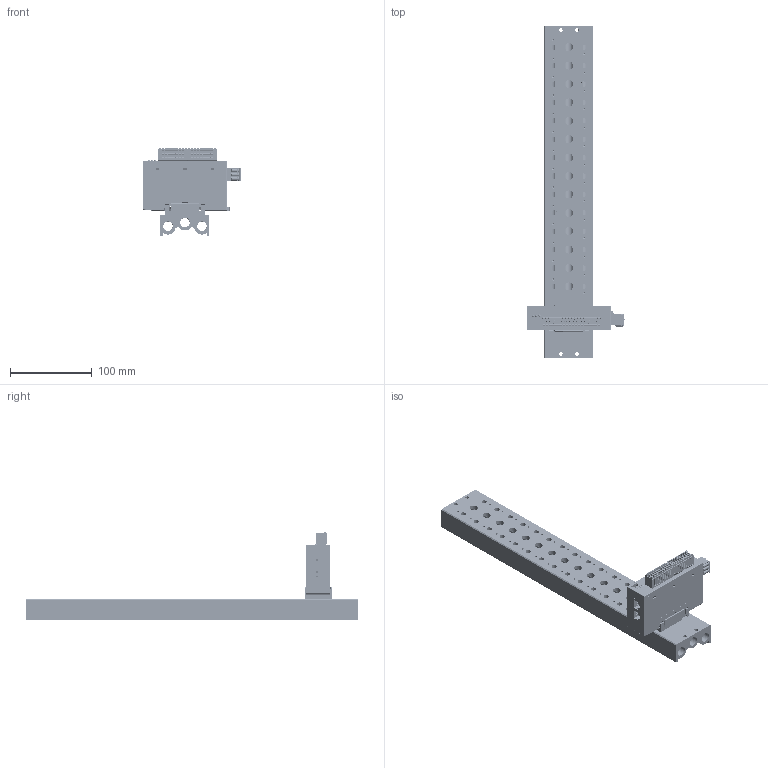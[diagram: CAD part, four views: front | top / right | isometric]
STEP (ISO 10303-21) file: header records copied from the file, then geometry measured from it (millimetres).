
FILE_DESCRIPTION(/* description */ (''),/* implementation_level */ '2;1');
FILE_NAME(/* name */ '',/* time_stamp */ '2025-10-09T16:50:58+08:00',/* author */ (''),/* organization */ (''),/* preprocessor_version */ 'ST-DEVELOPER v14',/* originating_system */ 'SIEMENS PLM Software NX 8.0',/* authorisation */ '');
FILE_SCHEMA (('AP203_CONFIGURATION_CONTROLLED_3D_DESIGN_OF_MECHANICAL_PARTS_AND_ASSEMBLIES_MIM_LF { 1 0 10303 403 2 1 2}'));
Products named in the file (1): DELL3E5857E9udqu
Bounding box: 119.8 x 406 x 108.48 mm (x, y, z)
Volume: 569697.7 mm3; surface area: 186269.8 mm2
Topology: 2 solids, 228 shells, 9822 faces, 26017 edges, 16937 vertices
Faces by surface type: plane 6421, cylinder 2303, bspline 338, torus 336, cone 242, sphere 95, extrusion 87
Full cylindrical faces by diameter (mm): 0.18 x2, 2.5 x33, 3.05 x40, 3.3 x3, 3.5 x4, 4 x3, 4.5 x4, 6 x4, 6.5 x28, 10 x14, 11.492 x1, 11.5 x3, 11.8 x6
Entity records: 323473 total; most frequent: CARTESIAN_POINT 81926, ORIENTED_EDGE 50762, DIRECTION 48346, EDGE_CURVE 25381, VECTOR 18120, LINE 18033, VERTEX_POINT 16769, AXIS2_PLACEMENT_3D 15113
